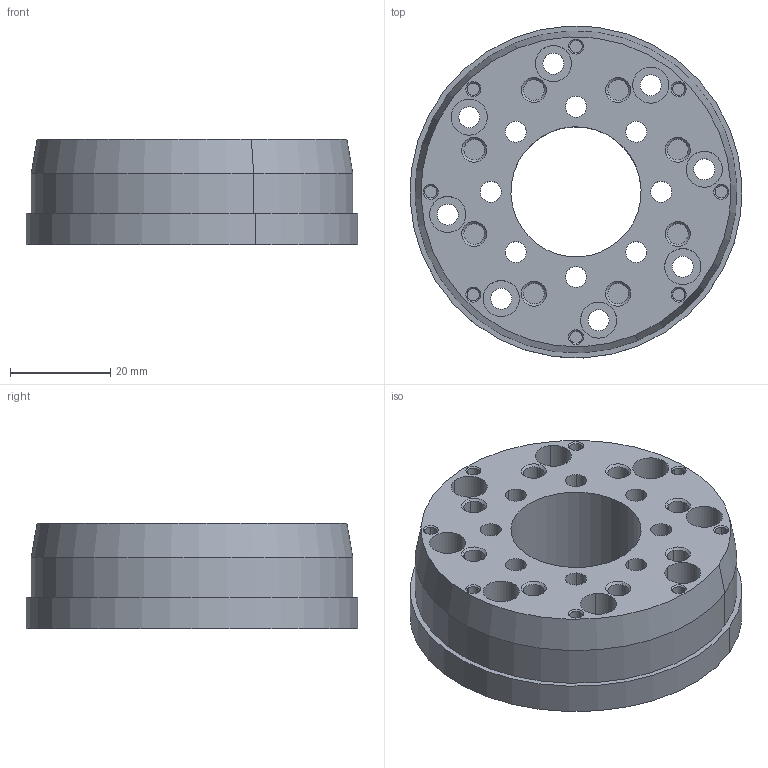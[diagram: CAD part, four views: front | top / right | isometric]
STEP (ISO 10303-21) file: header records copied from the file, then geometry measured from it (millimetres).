
FILE_DESCRIPTION(/* description */ ('(C) Elphel, Inc. 2013. Licensed under CERN OHL v.1.1 or later, see http://ohwr.org/cernohl'),/* implementation_level */ '2;1');
FILE_NAME(/* name */ '0353-40-18.stp',/* time_stamp */ '2013-04-04T19:58:34-06:00',/* author */ (''),/* organization */ ('Elphel, Inc'),/* preprocessor_version */ 'ST-DEVELOPER v14',/* originating_system */ 'VariCAD 2013-1.03; kernel version (20121105)',/* authorisation */ '');
FILE_SCHEMA (('CONFIG_CONTROL_DESIGN'));
Length unit declared in the file: millimetre
Products named in the file (2): 0353-40-18
Assembly tree (1 placements, depth 2):
  0353-40-18
    0353-40-18
Bounding box: 66.27 x 66.27 x 21 mm (x, y, z)
Volume: 46465.5 mm3; surface area: 19218.2 mm2
Topology: 1 solids, 1 shells, 203 faces, 438 edges, 270 vertices
Faces by surface type: cylinder 134, plane 35, cone 34
Entity records: 5742 total; most frequent: DIRECTION 1122, CARTESIAN_POINT 915, ORIENTED_EDGE 876, AXIS2_PLACEMENT_3D 477, EDGE_CURVE 438, EDGE_LOOP 270, CIRCLE 270, VERTEX_POINT 270
